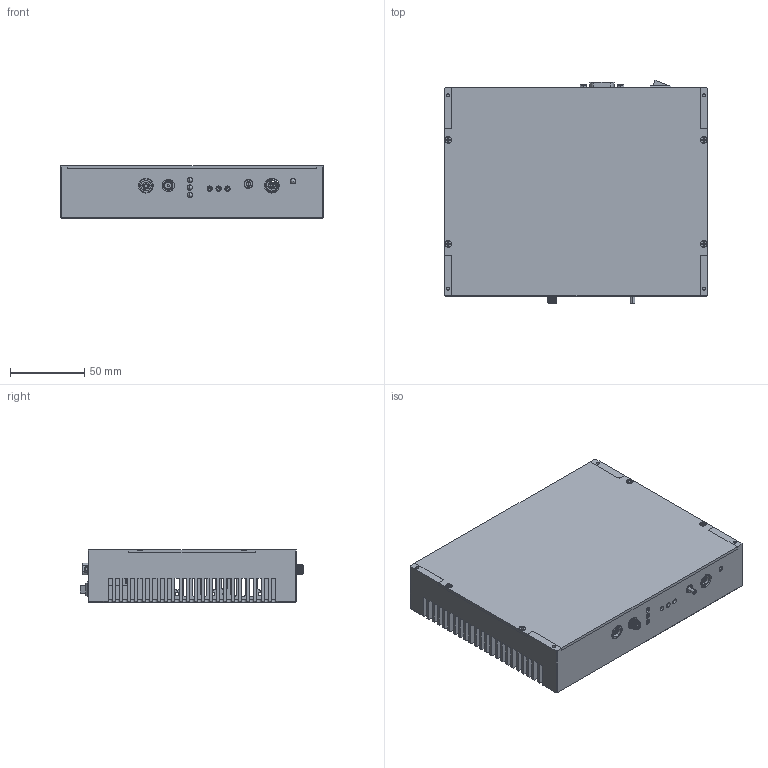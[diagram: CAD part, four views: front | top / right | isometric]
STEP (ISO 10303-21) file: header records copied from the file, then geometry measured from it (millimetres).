
FILE_DESCRIPTION (( 'STEP AP203' ), '1' );
FILE_NAME ('E80.D1S-H.STEP', '2025-07-16T00:46:55', ( 'China' ), ( 'Home' ), 'SwSTEP 2.0', 'SolidWorks 2016', '' );
FILE_SCHEMA (( 'CONFIG_CONTROL_DESIGN' ));
Length unit declared in the file: millimetre
Products named in the file (1): E80.D1S-H
Bounding box: 177 x 150.45 x 35 mm (x, y, z)
Surface area: 170989.8 mm2 (no closed solid volume)
Topology: 0 solids, 69 shells, 765 faces, 3246 edges, 2463 vertices
Faces by surface type: plane 403, cylinder 301, cone 27, bspline 14, sphere 12, torus 8
Entity records: 35029 total; most frequent: CARTESIAN_POINT 8148, DIRECTION 5665, ORIENTED_EDGE 4727, EDGE_CURVE 3226, VERTEX_POINT 2455, LINE 1889, VECTOR 1889, AXIS2_PLACEMENT_3D 1888
